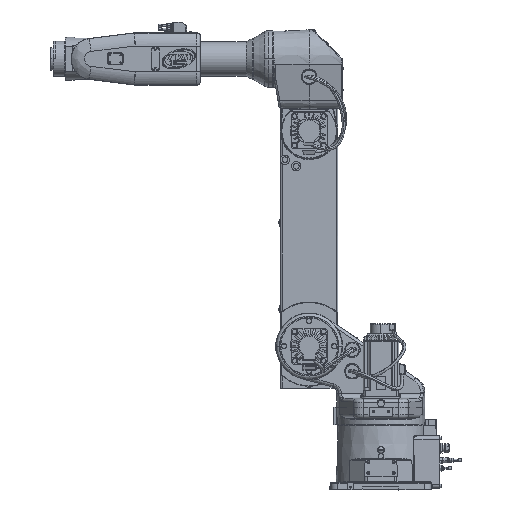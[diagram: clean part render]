
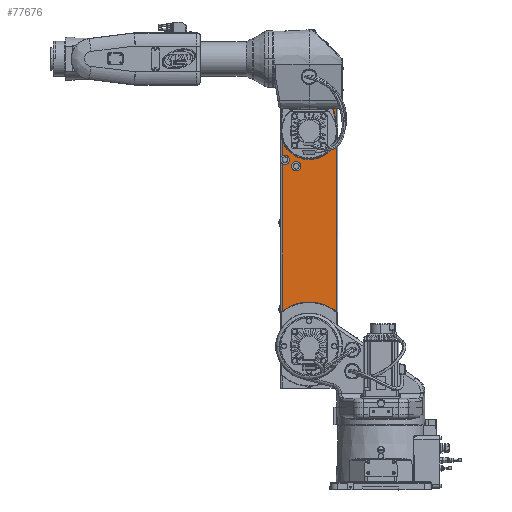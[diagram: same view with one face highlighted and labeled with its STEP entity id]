
A CAD part, top view. The second image highlights one B-rep face of the part: STEP entity #77676.
In plain terms, the highlighted planar face has unit normal (0, 0, 1).
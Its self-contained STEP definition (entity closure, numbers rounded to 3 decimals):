
#71452=CARTESIAN_POINT('',(-267.493,919.565,-93.5));
#71453=DIRECTION('',(0.,0.,1.));
#71454=DIRECTION('',(-0.577,-0.816,0.));
#71455=AXIS2_PLACEMENT_3D('',#71452,#71453,#71454);
#71457=CARTESIAN_POINT('',(-267.493,919.565,-93.5));
#71458=DIRECTION('',(0.,0.,1.));
#71459=DIRECTION('',(1.,0.,0.));
#71460=AXIS2_PLACEMENT_3D('',#71457,#71458,#71459);
#71462=DIRECTION('',(0.,1.,0.));
#71463=VECTOR('',#71462,153.021);
#71464=CARTESIAN_POINT('',(-275.,930.179,-93.5));
#71465=LINE('',#71464,#71463);
#71466=DIRECTION('',(1.,0.,0.));
#71467=VECTOR('',#71466,70.5);
#71468=CARTESIAN_POINT('',(-275.,1083.2,-93.5));
#71469=LINE('',#71468,#71467);
#71470=DIRECTION('',(0.,-1.,0.));
#71471=VECTOR('',#71470,3.2);
#71472=CARTESIAN_POINT('',(-204.5,1083.2,-93.5));
#71473=LINE('',#71472,#71471);
#71474=DIRECTION('',(1.,0.,0.));
#71475=VECTOR('',#71474,9.);
#71476=CARTESIAN_POINT('',(-204.5,1080.,-93.5));
#71477=LINE('',#71476,#71475);
#71478=DIRECTION('',(0.,1.,0.));
#71479=VECTOR('',#71478,3.2);
#71480=CARTESIAN_POINT('',(-195.5,1080.,-93.5));
#71481=LINE('',#71480,#71479);
#71482=DIRECTION('',(1.,0.,0.));
#71483=VECTOR('',#71482,70.5);
#71484=CARTESIAN_POINT('',(-195.5,1083.2,-93.5));
#71485=LINE('',#71484,#71483);
#71486=DIRECTION('',(0.,-1.,0.));
#71487=VECTOR('',#71486,585.712);
#71488=CARTESIAN_POINT('',(-125.,1083.2,-93.5));
#71489=LINE('',#71488,#71487);
#71490=CARTESIAN_POINT('',(-200.,400.,-93.5));
#71491=DIRECTION('',(0.,0.,1.));
#71492=DIRECTION('',(0.61,0.793,0.));
#71493=AXIS2_PLACEMENT_3D('',#71490,#71491,#71492);
#71495=DIRECTION('',(0.,1.,0.));
#71496=VECTOR('',#71495,411.464);
#71497=CARTESIAN_POINT('',(-275.,497.488,-93.5));
#71498=LINE('',#71497,#71496);
#71499=CARTESIAN_POINT('',(-235.912,901.332,-93.5));
#71500=DIRECTION('',(0.,0.,1.));
#71501=DIRECTION('',(-1.,0.,0.));
#71502=AXIS2_PLACEMENT_3D('',#71499,#71500,#71501);
#71504=CARTESIAN_POINT('',(-235.912,901.332,-93.5));
#71505=DIRECTION('',(0.,0.,1.));
#71506=DIRECTION('',(1.,0.,0.));
#71507=AXIS2_PLACEMENT_3D('',#71504,#71505,#71506);
#75388=CARTESIAN_POINT('',(-125.,1083.2,-93.5));
#75389=CARTESIAN_POINT('',(-125.,497.488,-93.5));
#75390=VERTEX_POINT('',#75388);
#75391=VERTEX_POINT('',#75389);
#75411=CARTESIAN_POINT('',(-204.5,1083.2,-93.5));
#75413=VERTEX_POINT('',#75411);
#75414=CARTESIAN_POINT('',(-275.,1083.2,-93.5));
#75415=VERTEX_POINT('',#75414);
#75416=CARTESIAN_POINT('',(-195.5,1083.2,-93.5));
#75418=VERTEX_POINT('',#75416);
#75428=CARTESIAN_POINT('',(-204.5,1080.,-93.5));
#75430=VERTEX_POINT('',#75428);
#75441=CARTESIAN_POINT('',(-195.5,1080.,-93.5));
#75443=VERTEX_POINT('',#75441);
#75444=CARTESIAN_POINT('',(-275.,908.952,-93.5));
#75445=CARTESIAN_POINT('',(-254.493,919.565,-93.5));
#75446=VERTEX_POINT('',#75444);
#75447=VERTEX_POINT('',#75445);
#75448=CARTESIAN_POINT('',(-275.,930.179,-93.5));
#75449=VERTEX_POINT('',#75448);
#75450=CARTESIAN_POINT('',(-275.,497.488,-93.5));
#75451=VERTEX_POINT('',#75450);
#75452=CARTESIAN_POINT('',(-248.912,901.332,-93.5));
#75453=CARTESIAN_POINT('',(-222.912,901.332,-93.5));
#75454=VERTEX_POINT('',#75452);
#75455=VERTEX_POINT('',#75453);
#77649=CARTESIAN_POINT('',(-200.,790.344,-93.5));
#77650=DIRECTION('',(0.,0.,1.));
#77651=DIRECTION('',(1.,0.,0.));
#77652=AXIS2_PLACEMENT_3D('',#77649,#77650,#77651);
#77653=PLANE('',#77652);
#77655=ORIENTED_EDGE('',*,*,#77654,.T.);
#77657=ORIENTED_EDGE('',*,*,#77656,.T.);
#77658=ORIENTED_EDGE('',*,*,#77140,.T.);
#77659=ORIENTED_EDGE('',*,*,#77440,.T.);
#77660=ORIENTED_EDGE('',*,*,#77484,.T.);
#77661=ORIENTED_EDGE('',*,*,#77517,.T.);
#77662=ORIENTED_EDGE('',*,*,#77637,.T.);
#77663=ORIENTED_EDGE('',*,*,#77453,.T.);
#77664=ORIENTED_EDGE('',*,*,#77316,.T.);
#77666=ORIENTED_EDGE('',*,*,#77665,.T.);
#77667=ORIENTED_EDGE('',*,*,#77148,.T.);
#77668=EDGE_LOOP('',(#77655,#77657,#77658,#77659,#77660,#77661,#77662,#77663,
#77664,#77666,#77667));
#77669=FACE_OUTER_BOUND('',#77668,.F.);
#77671=ORIENTED_EDGE('',*,*,#77670,.T.);
#77673=ORIENTED_EDGE('',*,*,#77672,.T.);
#77674=EDGE_LOOP('',(#77671,#77673));
#77675=FACE_BOUND('',#77674,.F.);
#71456=CIRCLE('',#71455,13.);
#71461=CIRCLE('',#71460,13.);
#71494=CIRCLE('',#71493,123.);
#71503=CIRCLE('',#71502,13.);
#71508=CIRCLE('',#71507,13.);
#77140=EDGE_CURVE('',#75449,#75415,#71465,.T.);
#77148=EDGE_CURVE('',#75451,#75446,#71498,.T.);
#77316=EDGE_CURVE('',#75390,#75391,#71489,.T.);
#77440=EDGE_CURVE('',#75415,#75413,#71469,.T.);
#77453=EDGE_CURVE('',#75418,#75390,#71485,.T.);
#77484=EDGE_CURVE('',#75413,#75430,#71473,.T.);
#77517=EDGE_CURVE('',#75430,#75443,#71477,.T.);
#77637=EDGE_CURVE('',#75443,#75418,#71481,.T.);
#77654=EDGE_CURVE('',#75446,#75447,#71456,.T.);
#77656=EDGE_CURVE('',#75447,#75449,#71461,.T.);
#77665=EDGE_CURVE('',#75391,#75451,#71494,.T.);
#77670=EDGE_CURVE('',#75454,#75455,#71503,.T.);
#77672=EDGE_CURVE('',#75455,#75454,#71508,.T.);
#77676=ADVANCED_FACE('',(#77669,#77675),#77653,.T.);
